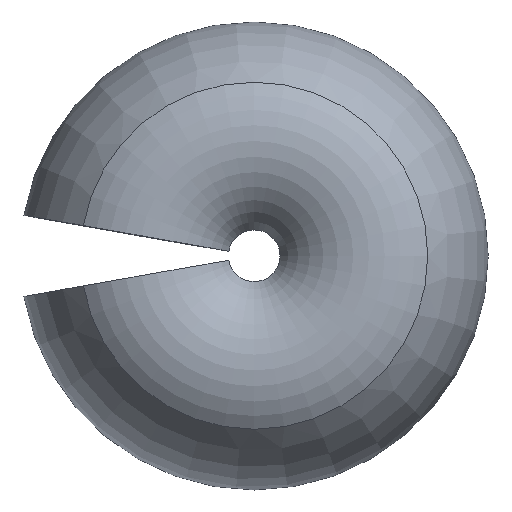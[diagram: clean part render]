
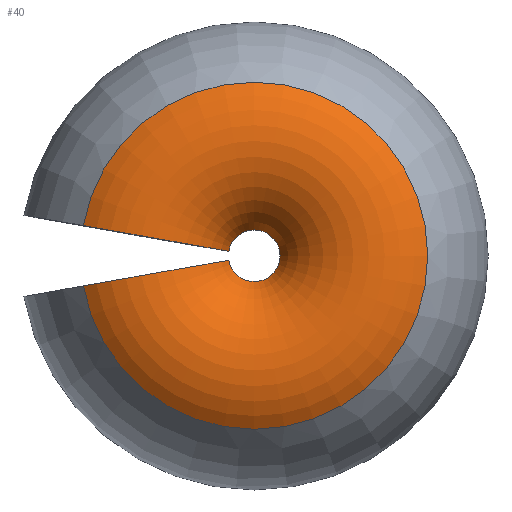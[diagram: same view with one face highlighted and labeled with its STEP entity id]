
A CAD part, top view. The second image highlights one B-rep face of the part: STEP entity #40.
In plain terms, the highlighted toroidal (fillet/blend) face has major radius 1518.53 mm and minor radius 1295 mm.
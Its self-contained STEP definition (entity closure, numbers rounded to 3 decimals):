
#2 = VERTEX_POINT ( 'NONE', #112 ) ;
#3 = DIRECTION ( 'NONE',  ( 0.174, 0.985, 0. ) ) ;
#7 = DIRECTION ( 'NONE',  ( -1., 0., 0. ) ) ;
#8 = EDGE_CURVE ( 'NONE', #270, #2, #122, .T. ) ;
#12 = AXIS2_PLACEMENT_3D ( 'NONE', #127, #3, #172 ) ;
#18 = CARTESIAN_POINT ( 'NONE',  ( 0., 0., 2424.67 ) ) ;
#23 = ORIENTED_EDGE ( 'NONE', *, *, #193, .T. ) ;
#26 = CARTESIAN_POINT ( 'NONE',  ( 0., 0., 1877.382 ) ) ;
#33 = CARTESIAN_POINT ( 'NONE',  ( -2280.628, 402.136, 2897.856 ) ) ;
#37 = DIRECTION ( 'NONE',  ( 0., 0., 1. ) ) ;
#40 = ADVANCED_FACE ( 'NONE', ( #45 ), #160, .T. ) ;
#45 = FACE_OUTER_BOUND ( 'NONE', #81, .T. ) ;
#58 = ORIENTED_EDGE ( 'NONE', *, *, #8, .T. ) ;
#68 = CARTESIAN_POINT ( 'NONE',  ( -2280.628, -402.136, 2897.856 ) ) ;
#76 = AXIS2_PLACEMENT_3D ( 'NONE', #180, #244, #155 ) ;
#81 = EDGE_LOOP ( 'NONE', ( #58, #23, #228, #119 ) ) ;
#92 = CIRCLE ( 'NONE', #76, 2315.811 ) ;
#112 = CARTESIAN_POINT ( 'NONE',  ( -339.62, 59.884, 2424.67 ) ) ;
#119 = ORIENTED_EDGE ( 'NONE', *, *, #206, .F. ) ;
#122 = CIRCLE ( 'NONE', #12, 1295. ) ;
#127 = CARTESIAN_POINT ( 'NONE',  ( -1495.459, 263.69, 1877.382 ) ) ;
#132 = CARTESIAN_POINT ( 'NONE',  ( -339.62, -59.884, 2424.67 ) ) ;
#138 = CARTESIAN_POINT ( 'NONE',  ( -1495.459, -263.69, 1877.382 ) ) ;
#143 = AXIS2_PLACEMENT_3D ( 'NONE', #18, #156, #246 ) ;
#155 = DIRECTION ( 'NONE',  ( -1., 0., 0. ) ) ;
#156 = DIRECTION ( 'NONE',  ( 0., 0., -1. ) ) ;
#160 = TOROIDAL_SURFACE ( 'NONE', #265, 1518.529, 1295. ) ;
#164 = EDGE_CURVE ( 'NONE', #214, #232, #239, .T. ) ;
#166 = AXIS2_PLACEMENT_3D ( 'NONE', #138, #248, #37 ) ;
#172 = DIRECTION ( 'NONE',  ( 0., 0., 1. ) ) ;
#175 = CIRCLE ( 'NONE', #143, 344.859 ) ;
#180 = CARTESIAN_POINT ( 'NONE',  ( 0., 0., 2897.856 ) ) ;
#191 = DIRECTION ( 'NONE',  ( 0., 0., -1. ) ) ;
#193 = EDGE_CURVE ( 'NONE', #2, #232, #175, .T. ) ;
#206 = EDGE_CURVE ( 'NONE', #270, #214, #92, .T. ) ;
#214 = VERTEX_POINT ( 'NONE', #68 ) ;
#228 = ORIENTED_EDGE ( 'NONE', *, *, #164, .F. ) ;
#232 = VERTEX_POINT ( 'NONE', #132 ) ;
#239 = CIRCLE ( 'NONE', #166, 1295. ) ;
#244 = DIRECTION ( 'NONE',  ( 0., 0., -1. ) ) ;
#246 = DIRECTION ( 'NONE',  ( -1., 0., 0. ) ) ;
#248 = DIRECTION ( 'NONE',  ( -0.174, 0.985, 0. ) ) ;
#265 = AXIS2_PLACEMENT_3D ( 'NONE', #26, #191, #7 ) ;
#270 = VERTEX_POINT ( 'NONE', #33 ) ;
